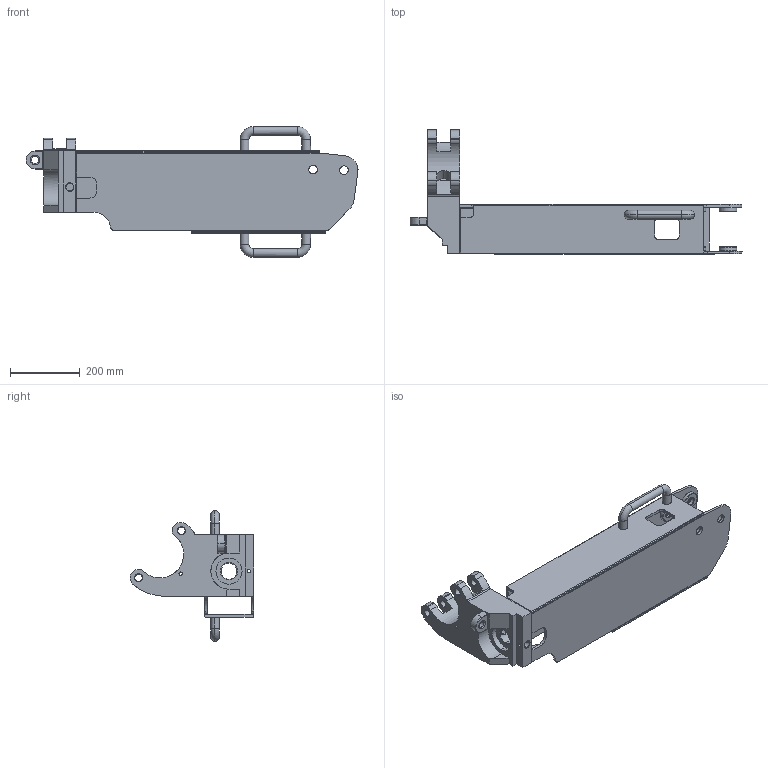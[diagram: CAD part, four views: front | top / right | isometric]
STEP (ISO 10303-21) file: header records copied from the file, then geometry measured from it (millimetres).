
FILE_DESCRIPTION (( 'STEP AP203' ), '1' );
FILE_NAME ('YYDK-500-0039 翻转支架(500T) - 左侧.STEP', '2026-04-22T01:15:08', ( 'Windows 用户' ), ( '' ), 'SwSTEP 2.0', 'SolidWorks 2020', '' );
FILE_SCHEMA (( 'CONFIG_CONTROL_DESIGN' ));
Length unit declared in the file: millimetre
Products named in the file (10): YYDK-500-0039 楹蛌盓殤(500T) - 酘耜; YYDK-500-0033-9 結輸; YYDK-500-0033-6 支架侧板4（500T）; YYDK-500-0033-4 支架侧板2（500T）; YYDK-500-0033-3 支架侧板1（500T）; YYDK-500-0039-1-A 支架连接块（500T）-左侧; YYDK-500-0033-5 支架侧板3（500T）; YYDK-500-0033-8 支架加强筋（500T）; YYDK-500-0033-7 支架把手（500T）; YYDK-500-0033-2 支架吊环（500T）
Assembly tree (13 placements, depth 2):
  YYDK-500-0039 楹蛌盓殤(500T) - 酘耜
    YYDK-500-0039-1-A 支架连接块（500T）-左侧
    YYDK-500-0033-3 支架侧板1（500T）
    YYDK-500-0033-5 支架侧板3（500T）
    YYDK-500-0033-4 支架侧板2（500T）
    YYDK-500-0033-6 支架侧板4（500T）
    YYDK-500-0033-2 支架吊环（500T）
    YYDK-500-0033-7 支架把手（500T）  x2
    YYDK-500-0033-8 支架加强筋（500T）
    YYDK-500-0033-9 結輸  x4
Bounding box: 953.46 x 355.97 x 375.89 mm (x, y, z)
Volume: 7375451.5 mm3; surface area: 1312045.3 mm2
Topology: 13 solids, 13 shells, 321 faces, 783 edges, 495 vertices
Faces by surface type: plane 135, cylinder 117, cone 49, torus 16, bspline 4
Entity records: 9792 total; most frequent: CARTESIAN_POINT 2097, DIRECTION 1400, ORIENTED_EDGE 1338, EDGE_CURVE 669, AXIS2_PLACEMENT_3D 494, VERTEX_POINT 431, LINE 412, VECTOR 412
